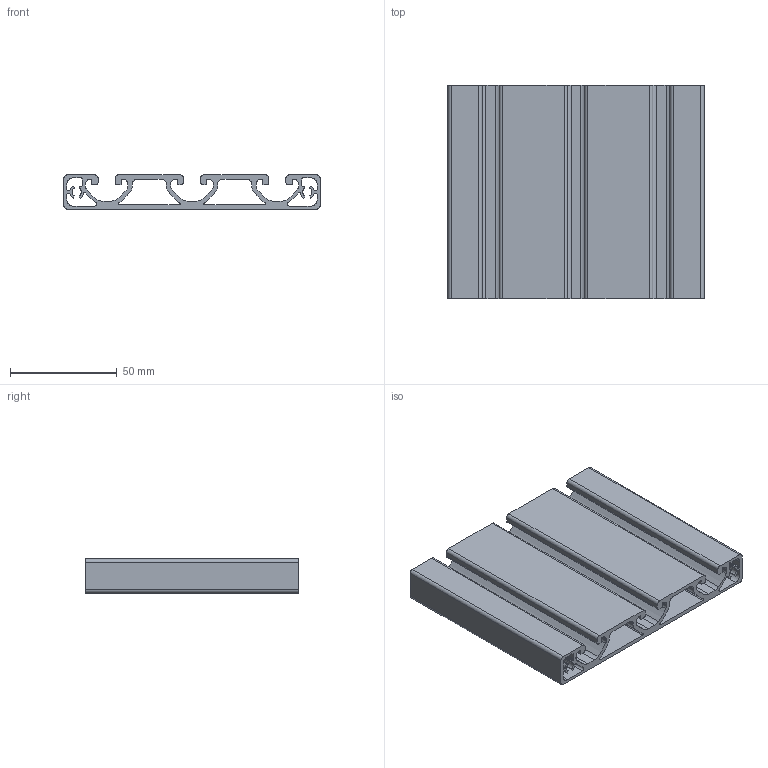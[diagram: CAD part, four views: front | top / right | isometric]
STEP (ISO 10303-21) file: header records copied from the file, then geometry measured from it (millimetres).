
FILE_DESCRIPTION (( 'STEP AP203' ), '1' );
FILE_NAME ('0108P12016E.STEP', '2024-02-29T13:17:59', ( 'Windows-Benutzer' ), ( '' ), 'SwSTEP 2.0', 'SolidWorks 2023', '' );
FILE_SCHEMA (( 'CONFIG_CONTROL_DESIGN' ));
Length unit declared in the file: millimetre
Products named in the file (1): 0108P12016E
Bounding box: 120 x 100 x 16 mm (x, y, z)
Volume: 72793.3 mm3; surface area: 70065.5 mm2
Topology: 1 solids, 1 shells, 182 faces, 540 edges, 360 vertices
Faces by surface type: cylinder 110, plane 72
Entity records: 6277 total; most frequent: DIRECTION 1126, CARTESIAN_POINT 1083, ORIENTED_EDGE 1080, EDGE_CURVE 540, AXIS2_PLACEMENT_3D 403, VERTEX_POINT 360, LINE 320, VECTOR 320
